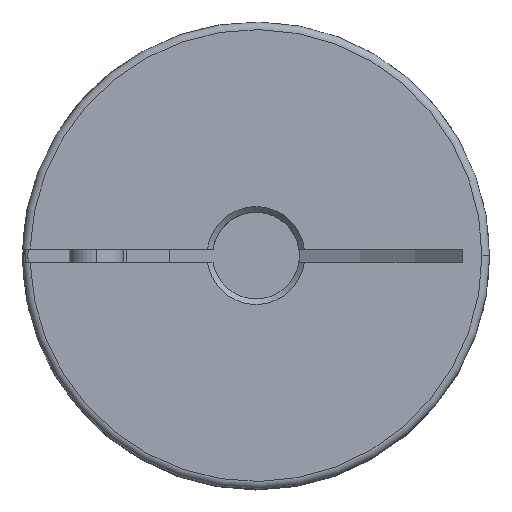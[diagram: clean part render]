
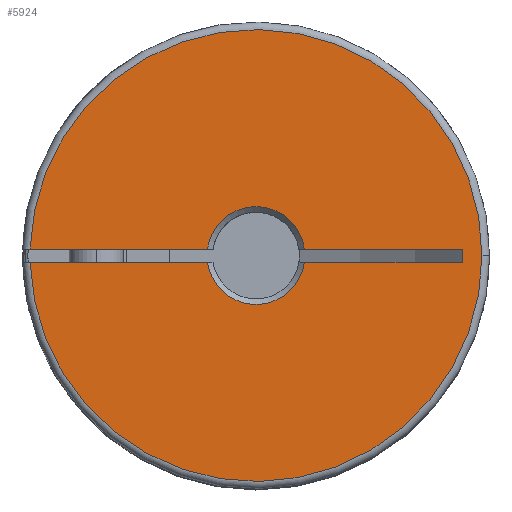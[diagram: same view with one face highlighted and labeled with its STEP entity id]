
A CAD part, top view. The second image highlights one B-rep face of the part: STEP entity #5924.
In plain terms, the highlighted planar face has unit normal (0, 0, 1).
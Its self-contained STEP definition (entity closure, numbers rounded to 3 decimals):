
#175 = VERTEX_POINT ( 'NONE', #5050 ) ;
#183 = VERTEX_POINT ( 'NONE', #5042 ) ;
#184 = VERTEX_POINT ( 'NONE', #5010 ) ;
#187 = VERTEX_POINT ( 'NONE', #5039 ) ;
#188 = VERTEX_POINT ( 'NONE', #5038 ) ;
#190 = VERTEX_POINT ( 'NONE', #5036 ) ;
#200 = VERTEX_POINT ( 'NONE', #5026 ) ;
#273 = DIRECTION ( 'NONE',  ( 0., 1., 0. ) ) ;
#277 = CARTESIAN_POINT ( 'NONE',  ( 19., -0.6, 23.5 ) ) ;
#279 = DIRECTION ( 'NONE',  ( 0., -1., 0. ) ) ;
#285 = DIRECTION ( 'NONE',  ( -1., 0., 0. ) ) ;
#291 = DIRECTION ( 'NONE',  ( -1., 0., 0. ) ) ;
#293 = CARTESIAN_POINT ( 'NONE',  ( 19., 0.6, 23.5 ) ) ;
#309 = DIRECTION ( 'NONE',  ( -1., 0., 0. ) ) ;
#312 = DIRECTION ( 'NONE',  ( 0., 0., -1. ) ) ;
#354 = DIRECTION ( 'NONE',  ( 0., 0., -1. ) ) ;
#361 = CARTESIAN_POINT ( 'NONE',  ( 0., 0., 23.5 ) ) ;
#366 = CARTESIAN_POINT ( 'NONE',  ( 19., 0.6, 23.5 ) ) ;
#367 = DIRECTION ( 'NONE',  ( 0., 1., 0. ) ) ;
#369 = DIRECTION ( 'NONE',  ( -1., 0., 0. ) ) ;
#374 = CARTESIAN_POINT ( 'NONE',  ( 0., 0., 23.5 ) ) ;
#379 = DIRECTION ( 'NONE',  ( 1., 0., 0. ) ) ;
#380 = CARTESIAN_POINT ( 'NONE',  ( 19., 0.6, 23.5 ) ) ;
#385 = CARTESIAN_POINT ( 'NONE',  ( 0., 0., 23.5 ) ) ;
#388 = DIRECTION ( 'NONE',  ( 0., 0., 1. ) ) ;
#389 = CARTESIAN_POINT ( 'NONE',  ( 19., -0.6, 23.5 ) ) ;
#655 = AXIS2_PLACEMENT_3D ( 'NONE', #1223, #1227, #1228 ) ;
#751 = AXIS2_PLACEMENT_3D ( 'NONE', #3437, #3438, #3439 ) ;
#929 = CARTESIAN_POINT ( 'NONE',  ( -20.791, 0.6, 23.5 ) ) ;
#1223 = CARTESIAN_POINT ( 'NONE',  ( 0., 0., 23.5 ) ) ;
#1224 = PLANE ( 'NONE',  #655 ) ;
#1227 = DIRECTION ( 'NONE',  ( 0., 0., -1. ) ) ;
#1228 = DIRECTION ( 'NONE',  ( 1., 0., 0. ) ) ;
#1767 = FACE_OUTER_BOUND ( 'NONE', #6657, .T. ) ;
#1996 = CIRCLE ( 'NONE', #751, 20.8 ) ;
#2980 = EDGE_CURVE ( 'NONE', #200, #7894, #5204, .T. ) ;
#2981 = EDGE_CURVE ( 'NONE', #200, #175, #5205, .T. ) ;
#2982 = EDGE_CURVE ( 'NONE', #187, #175, #5201, .T. ) ;
#2983 = EDGE_CURVE ( 'NONE', #187, #184, #5207, .T. ) ;
#2984 = EDGE_CURVE ( 'NONE', #184, #190, #5210, .T. ) ;
#2985 = EDGE_CURVE ( 'NONE', #190, #188, #5212, .T. ) ;
#2986 = EDGE_CURVE ( 'NONE', #188, #183, #5214, .T. ) ;
#2987 = EDGE_CURVE ( 'NONE', #183, #7735, #5215, .T. ) ;
#3257 = AXIS2_PLACEMENT_3D ( 'NONE', #361, #354, #273 ) ;
#3258 = AXIS2_PLACEMENT_3D ( 'NONE', #374, #312, #367 ) ;
#3259 = AXIS2_PLACEMENT_3D ( 'NONE', #385, #388, #379 ) ;
#3437 = CARTESIAN_POINT ( 'NONE',  ( 0., 0., 23.5 ) ) ;
#3438 = DIRECTION ( 'NONE',  ( 0., 0., 1. ) ) ;
#3439 = DIRECTION ( 'NONE',  ( 1., 0., 0. ) ) ;
#3762 = CARTESIAN_POINT ( 'NONE',  ( 20.8, 0., 23.5 ) ) ;
#5010 = CARTESIAN_POINT ( 'NONE',  ( 19., -0.6, 23.5 ) ) ;
#5026 = CARTESIAN_POINT ( 'NONE',  ( -4.46, 0.6, 23.5 ) ) ;
#5036 = CARTESIAN_POINT ( 'NONE',  ( 4.46, -0.6, 23.5 ) ) ;
#5038 = CARTESIAN_POINT ( 'NONE',  ( -4.46, -0.6, 23.5 ) ) ;
#5039 = CARTESIAN_POINT ( 'NONE',  ( 19., 0.6, 23.5 ) ) ;
#5042 = CARTESIAN_POINT ( 'NONE',  ( -20.791, -0.6, 23.5 ) ) ;
#5050 = CARTESIAN_POINT ( 'NONE',  ( 4.46, 0.6, 23.5 ) ) ;
#5201 = LINE ( 'NONE', #380, #5209 ) ;
#5204 = LINE ( 'NONE', #366, #5206 ) ;
#5205 = CIRCLE ( 'NONE', #3257, 4.5 ) ;
#5206 = VECTOR ( 'NONE', #285, 1000. ) ;
#5207 = LINE ( 'NONE', #293, #5211 ) ;
#5209 = VECTOR ( 'NONE', #369, 1000. ) ;
#5210 = LINE ( 'NONE', #389, #5213 ) ;
#5211 = VECTOR ( 'NONE', #279, 1000. ) ;
#5212 = CIRCLE ( 'NONE', #3258, 4.5 ) ;
#5213 = VECTOR ( 'NONE', #309, 1000. ) ;
#5214 = LINE ( 'NONE', #277, #5216 ) ;
#5215 = CIRCLE ( 'NONE', #3259, 20.8 ) ;
#5216 = VECTOR ( 'NONE', #291, 1000. ) ;
#5924 = ADVANCED_FACE ( 'NONE', ( #1767 ), #1224, .F. ) ;
#6553 = ORIENTED_EDGE ( 'NONE', *, *, #2984, .T. ) ;
#6574 = ORIENTED_EDGE ( 'NONE', *, *, #2983, .T. ) ;
#6579 = ORIENTED_EDGE ( 'NONE', *, *, #2987, .T. ) ;
#6581 = ORIENTED_EDGE ( 'NONE', *, *, #2985, .T. ) ;
#6657 = EDGE_LOOP ( 'NONE', ( #7356, #7111, #7326, #6574, #6553, #6581, #7293, #6579, #6967 ) ) ;
#6967 = ORIENTED_EDGE ( 'NONE', *, *, #7542, .T. ) ;
#7111 = ORIENTED_EDGE ( 'NONE', *, *, #2981, .T. ) ;
#7293 = ORIENTED_EDGE ( 'NONE', *, *, #2986, .T. ) ;
#7326 = ORIENTED_EDGE ( 'NONE', *, *, #2982, .F. ) ;
#7356 = ORIENTED_EDGE ( 'NONE', *, *, #2980, .F. ) ;
#7542 = EDGE_CURVE ( 'NONE', #7735, #7894, #1996, .T. ) ;
#7735 = VERTEX_POINT ( 'NONE', #3762 ) ;
#7894 = VERTEX_POINT ( 'NONE', #929 ) ;
